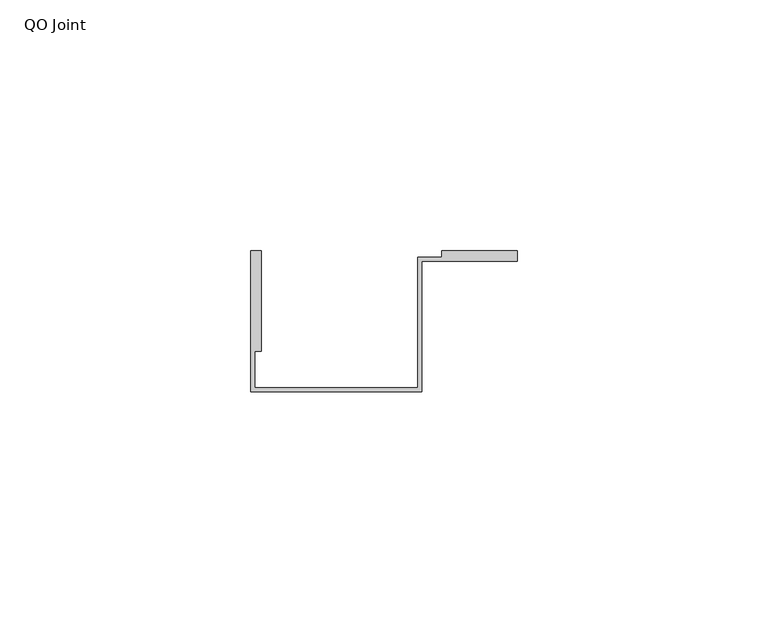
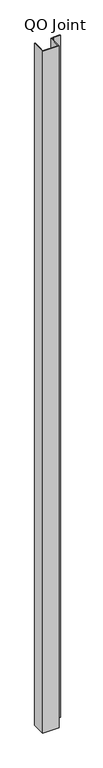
"""IFC4 building model written with IfcOpenShell, lengths in millimetres: column geometry, QO-V-inner corner_C : QO Joint."""

from ifc_helpers import new_model, si_unit, frame, origin, place, context, project, spatial, polyline, outline, extrude, source, transform, mapped, element, save


def qo_joint_b5581623(model_context):
    return source(origin(), model_context, "Body", "SweptSolid", [
        extrude(outline(polyline([(-21.0, 26.0), (-21.0, 0.0), (-55.0, 0.0), (-55.0, 28.0), (-53.0, 28.0), (-53.0, 8.0), (-54.2, 8.0), (-54.2, 0.8), (-21.8, 0.8), (-21.8, 26.8), (-17.0, 26.8), (-17.0, 28.0), (-2.0, 28.0), (-2.0, 26.0), (-21.0, 26.0)])), frame((0.0, 0.0, 4650.0), z_axis=(0.0, 0.0, 1.0), x_axis=(1.0, 0.0, 0.0)), (0.0, 0.0, 1.0), 1500.0),
    ])


if __name__ == "__main__":
    model = new_model("IFC4")
    model_context = context("Model", 3, world=origin())
    ifc_project = project(units=[si_unit("LENGTHUNIT", "METRE", prefix="MILLI")], contexts=[model_context])
    site = spatial("IfcSite", under=ifc_project)
    building = spatial("IfcBuilding", under=site)
    placement = place(None, origin())
    qo_joint_shape = qo_joint_b5581623(model_context)
    element("IfcColumn", 1, ObjectType="QO-V-inner corner_C : QO Joint", at=placement, inside=building, context=model_context, shape_type="MappedRepresentation", body=[
        mapped(qo_joint_shape, transform((0.0, 0.0, 0.0), x_axis=(1.0, 0.0, 0.0), y_axis=(0.0, 1.0, 0.0), z_axis=(0.0, 0.0, 1.0))),
    ])
    save(model, "model.ifc")
